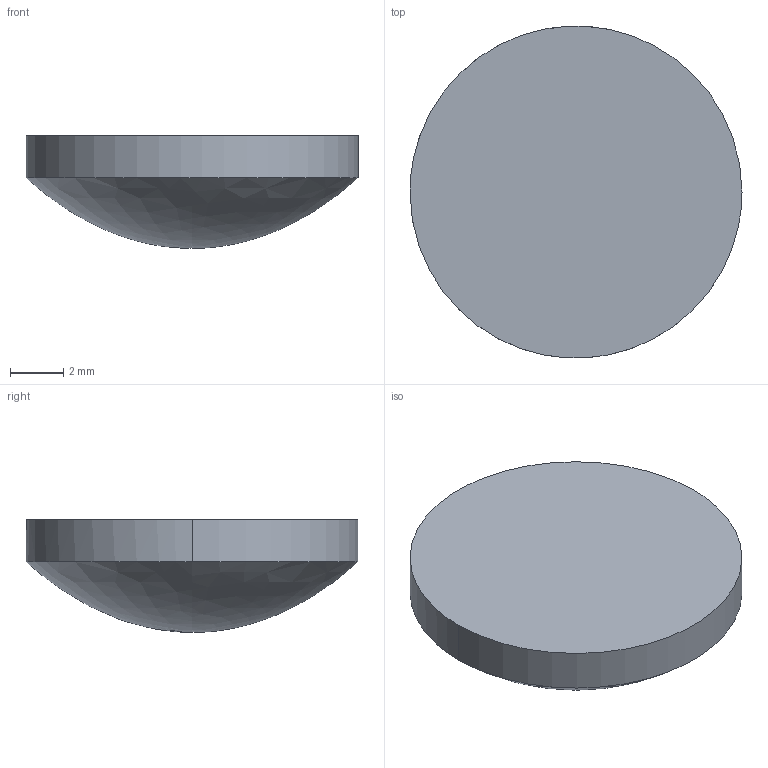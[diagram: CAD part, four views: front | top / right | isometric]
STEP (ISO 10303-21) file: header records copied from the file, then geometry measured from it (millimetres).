
FILE_DESCRIPTION ((), '1');
FILE_NAME ('\\fileserver\Daten\Applikationen\Optikdesign\SPA-Design\aktuelle SPA-Designs\Linsenkataloge - 2016-Juni\Zemax\AHL\AHL12-10.STP', '2016-05-24T14:17:20', ('Unknown'), ('Unknown'), 'HarmonyWare STEP v2.0.1', 'HarmonyWare Translators', '');
FILE_SCHEMA (('CONFIG_CONTROL_DESIGN'));
Length unit declared in the file: millimetre
Products named in the file (1): NONE
Bounding box: 12.5 x 12.49 x 4.25 mm (x, y, z)
Volume: 361.9 mm3; surface area: 328.9 mm2
Topology: 1 solids, 1 shells, 4 faces, 9 edges, 6 vertices
Faces by surface type: cylinder 2, bspline 1, plane 1
Entity records: 285 total; most frequent: CARTESIAN_POINT 134, ORIENTED_EDGE 16, EDGE_CURVE 8, PERSON 8, ORGANIZATION 8, PERSON_AND_ORGANIZATION 8, VERTEX_POINT 6, DIRECTION 6
